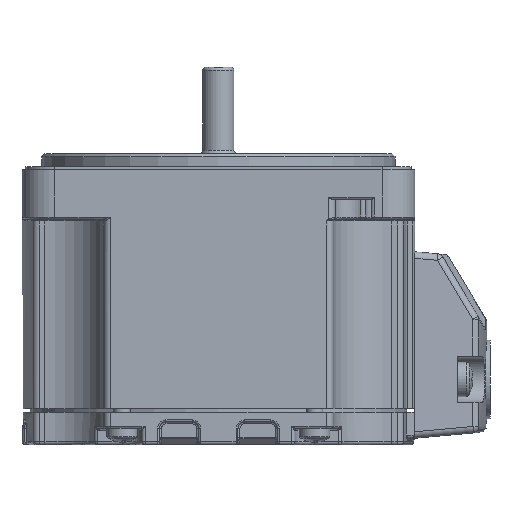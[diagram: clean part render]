
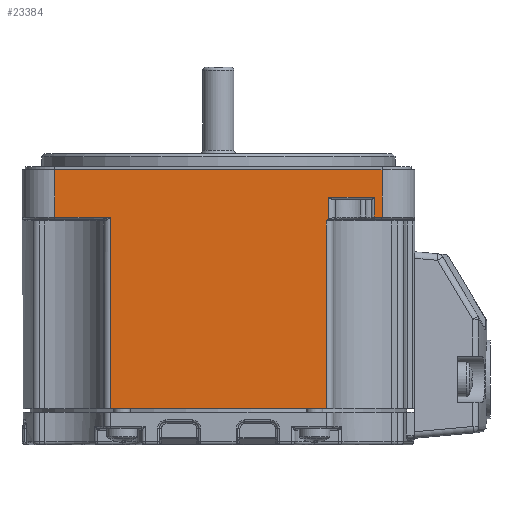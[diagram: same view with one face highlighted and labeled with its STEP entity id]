
A CAD part, left-side view. The second image highlights one B-rep face of the part: STEP entity #23384.
In plain terms, the highlighted planar face has unit normal (-1, 0, 0).
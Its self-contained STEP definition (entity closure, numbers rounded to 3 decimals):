
#18317=CARTESIAN_POINT('',(-60.,55.,2.728));
#18318=VERTEX_POINT('',#18317);
#18326=CARTESIAN_POINT('',(-60.,55.,9.928));
#18327=VERTEX_POINT('',#18326);
#18328=CARTESIAN_POINT('',(-60.,55.,2.728));
#18329=DIRECTION('',(0.0,0.0,1.0));
#18330=VECTOR('',#18329,7.2);
#18331=LINE('',#18328,#18330);
#18332=EDGE_CURVE('',#18318,#18327,#18331,.T.);
#18383=CARTESIAN_POINT('',(-60.,5.,9.928));
#18384=VERTEX_POINT('',#18383);
#18411=CARTESIAN_POINT('',(-60.,5.,9.928));
#18412=DIRECTION('',(0.0,1.0,0.0));
#18413=VECTOR('',#18412,50.0);
#18414=LINE('',#18411,#18413);
#18415=EDGE_CURVE('',#18384,#18327,#18414,.T.);
#19499=CARTESIAN_POINT('',(-60.,13.5,2.128));
#19500=VERTEX_POINT('',#19499);
#19508=CARTESIAN_POINT('',(-60.,13.5,-26.572));
#19509=VERTEX_POINT('',#19508);
#19510=CARTESIAN_POINT('',(-60.,13.5,2.128));
#19511=DIRECTION('',(0.0,0.0,-1.0));
#19512=VECTOR('',#19511,28.7);
#19513=LINE('',#19510,#19512);
#19514=EDGE_CURVE('',#19500,#19509,#19513,.T.);
#19674=CARTESIAN_POINT('',(-60.,46.5,-26.572));
#19675=VERTEX_POINT('',#19674);
#19676=CARTESIAN_POINT('',(-60.,46.5,-26.572));
#19677=DIRECTION('',(0.0,-1.0,0.0));
#19678=VECTOR('',#19677,33.0);
#19679=LINE('',#19676,#19678);
#19680=EDGE_CURVE('',#19675,#19509,#19679,.T.);
#20271=CARTESIAN_POINT('',(-60.,5.,2.728));
#20272=VERTEX_POINT('',#20271);
#20282=CARTESIAN_POINT('',(-60.,5.,9.928));
#20283=DIRECTION('',(0.0,0.0,-1.0));
#20284=VECTOR('',#20283,7.2);
#20285=LINE('',#20282,#20284);
#20286=EDGE_CURVE('',#18384,#20272,#20285,.T.);
#20296=CARTESIAN_POINT('',(-60.,6.15,2.728));
#20297=VERTEX_POINT('',#20296);
#20307=CARTESIAN_POINT('',(-60.,6.15,5.728));
#20308=VERTEX_POINT('',#20307);
#20309=CARTESIAN_POINT('',(-60.,6.15,5.728));
#20310=DIRECTION('',(0.0,0.0,-1.0));
#20311=VECTOR('',#20310,3.);
#20312=LINE('',#20309,#20311);
#20313=EDGE_CURVE('',#20308,#20297,#20312,.T.);
#20531=CARTESIAN_POINT('',(-60.,13.15,2.432));
#20532=VERTEX_POINT('',#20531);
#20563=CARTESIAN_POINT('',(-60.,13.15,5.728));
#20564=VERTEX_POINT('',#20563);
#20576=CARTESIAN_POINT('',(-60.,13.15,2.432));
#20577=DIRECTION('',(0.0,0.0,1.0));
#20578=VECTOR('',#20577,3.296);
#20579=LINE('',#20576,#20578);
#20580=EDGE_CURVE('',#20532,#20564,#20579,.T.);
#20698=CARTESIAN_POINT('',(-60.,5.,2.728));
#20699=DIRECTION('',(0.0,1.0,0.0));
#20700=VECTOR('',#20699,1.15);
#20701=LINE('',#20698,#20700);
#20702=EDGE_CURVE('',#20272,#20297,#20701,.T.);
#21118=CARTESIAN_POINT('',(-60.,13.15,2.432));
#21119=CARTESIAN_POINT('',(-60.,13.272,2.339));
#21120=CARTESIAN_POINT('',(-60.,13.385,2.235));
#21121=CARTESIAN_POINT('',(-60.,13.498,2.13));
#21122=CARTESIAN_POINT('',(-60.,13.499,2.129));
#21123=CARTESIAN_POINT('',(-60.,13.5,2.128));
#21124=B_SPLINE_CURVE_WITH_KNOTS('',3,(#21118,#21119,#21120,#21121,#21122,#21123),.UNSPECIFIED.,.F.,.U.,(4,2,4),(0.0,0.046,0.046),.UNSPECIFIED.);
#21125=EDGE_CURVE('',#20532,#19500,#21124,.T.);
#22880=CARTESIAN_POINT('',(-60.,46.5,2.728));
#22881=VERTEX_POINT('',#22880);
#22895=CARTESIAN_POINT('',(-60.,46.5,2.728));
#22896=DIRECTION('',(0.0,1.0,0.0));
#22897=VECTOR('',#22896,8.5);
#22898=LINE('',#22895,#22897);
#22899=EDGE_CURVE('',#22881,#18318,#22898,.T.);
#23111=CARTESIAN_POINT('',(-60.,46.5,2.728));
#23112=DIRECTION('',(0.0,0.0,-1.0));
#23113=VECTOR('',#23112,29.3);
#23114=LINE('',#23111,#23113);
#23115=EDGE_CURVE('',#22881,#19675,#23114,.T.);
#23360=CARTESIAN_POINT('',(-60.,60.,9.928));
#23361=DIRECTION('',(-1.0,0.0,0.0));
#23362=DIRECTION('',(0.0,0.0,1.0));
#23363=AXIS2_PLACEMENT_3D('',#23360,#23361,#23362);
#23364=PLANE('',#23363);
#23365=ORIENTED_EDGE('',*,*,#20580,.T.);
#23366=CARTESIAN_POINT('',(-60.,6.15,5.728));
#23367=DIRECTION('',(0.0,1.0,0.0));
#23368=VECTOR('',#23367,7.);
#23369=LINE('',#23366,#23368);
#23370=EDGE_CURVE('',#20308,#20564,#23369,.T.);
#23371=ORIENTED_EDGE('',*,*,#23370,.F.);
#23372=ORIENTED_EDGE('',*,*,#20313,.T.);
#23373=ORIENTED_EDGE('',*,*,#20702,.F.);
#23374=ORIENTED_EDGE('',*,*,#20286,.F.);
#23375=ORIENTED_EDGE('',*,*,#18415,.T.);
#23376=ORIENTED_EDGE('',*,*,#18332,.F.);
#23377=ORIENTED_EDGE('',*,*,#22899,.F.);
#23378=ORIENTED_EDGE('',*,*,#23115,.T.);
#23379=ORIENTED_EDGE('',*,*,#19680,.T.);
#23380=ORIENTED_EDGE('',*,*,#19514,.F.);
#23381=ORIENTED_EDGE('',*,*,#21125,.F.);
#23382=EDGE_LOOP('',(#23365,#23371,#23372,#23373,#23374,#23375,#23376,#23377,#23378,#23379,#23380,#23381));
#23383=FACE_OUTER_BOUND('',#23382,.T.);
#23384=ADVANCED_FACE('',(#23383),#23364,.T.);
